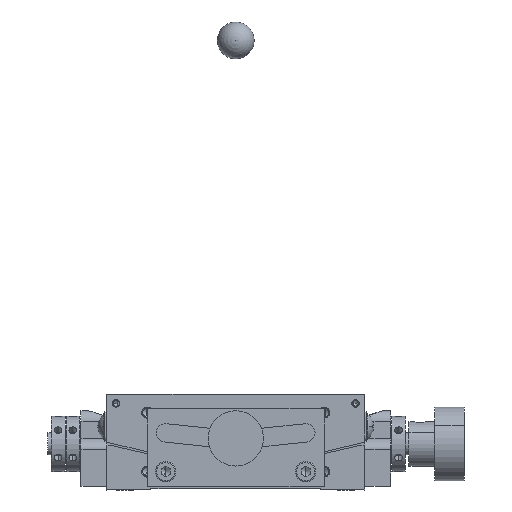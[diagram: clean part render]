
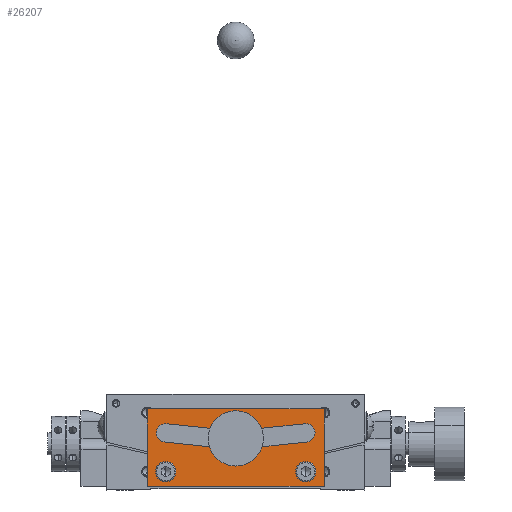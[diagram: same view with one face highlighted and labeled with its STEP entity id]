
A CAD part, front view. The second image highlights one B-rep face of the part: STEP entity #26207.
In plain terms, the highlighted planar face has unit normal (0, -1, 0) as drawn and (-1, 0, 0) by its records, which use the part's own axes.
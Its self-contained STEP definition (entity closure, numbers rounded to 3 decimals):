
#385 = CIRCLE ( 'NONE', #389, 2.5 ) ;
#389 = AXIS2_PLACEMENT_3D ( 'NONE', #58047, #58048, #58049 ) ;
#761 = CIRCLE ( 'NONE', #779, 2.45 ) ;
#779 = AXIS2_PLACEMENT_3D ( 'NONE', #22311, #22312, #22313 ) ;
#3483 = EDGE_CURVE ( 'NONE', #12742, #12734, #56384, .T. ) ;
#3535 = EDGE_CURVE ( 'NONE', #10435, #10813, #48434, .T. ) ;
#6439 = EDGE_CURVE ( 'NONE', #10444, #12750, #48510, .T. ) ;
#6458 = EDGE_CURVE ( 'NONE', #12750, #12726, #44240, .T. ) ;
#6459 = EDGE_CURVE ( 'NONE', #11363, #11175, #44244, .T. ) ;
#6460 = EDGE_CURVE ( 'NONE', #12726, #11363, #44281, .T. ) ;
#6461 = EDGE_CURVE ( 'NONE', #12730, #12742, #57166, .T. ) ;
#6463 = EDGE_CURVE ( 'NONE', #12738, #12730, #57178, .T. ) ;
#6466 = EDGE_CURVE ( 'NONE', #12734, #12738, #57191, .T. ) ;
#7218 = EDGE_CURVE ( 'NONE', #10857, #10439, #65961, .T. ) ;
#10435 = VERTEX_POINT ( 'NONE', #31430 ) ;
#10439 = VERTEX_POINT ( 'NONE', #31432 ) ;
#10444 = VERTEX_POINT ( 'NONE', #31437 ) ;
#10813 = VERTEX_POINT ( 'NONE', #31806 ) ;
#10857 = VERTEX_POINT ( 'NONE', #31850 ) ;
#11175 = VERTEX_POINT ( 'NONE', #18174 ) ;
#11363 = VERTEX_POINT ( 'NONE', #18362 ) ;
#12726 = VERTEX_POINT ( 'NONE', #19045 ) ;
#12730 = VERTEX_POINT ( 'NONE', #19047 ) ;
#12734 = VERTEX_POINT ( 'NONE', #19049 ) ;
#12738 = VERTEX_POINT ( 'NONE', #19051 ) ;
#12742 = VERTEX_POINT ( 'NONE', #19053 ) ;
#12750 = VERTEX_POINT ( 'NONE', #19057 ) ;
#13013 = DIRECTION ( 'NONE',  ( 1., 0., 0. ) ) ;
#13024 = FACE_BOUND ( 'NONE', #67357, .T. ) ;
#13034 = FACE_BOUND ( 'NONE', #67363, .T. ) ;
#13036 = CARTESIAN_POINT ( 'NONE',  ( -37., 0., 1. ) ) ;
#13040 = FACE_BOUND ( 'NONE', #67362, .T. ) ;
#13043 = FACE_OUTER_BOUND ( 'NONE', #67364, .T. ) ;
#13045 = PLANE ( 'NONE',  #55213 ) ;
#13047 = DIRECTION ( 'NONE',  ( 0., 1., 0. ) ) ;
#18174 = CARTESIAN_POINT ( 'NONE',  ( -37., 21.532, 15.506 ) ) ;
#18362 = CARTESIAN_POINT ( 'NONE',  ( -37., 19.377, 13.03 ) ) ;
#19045 = CARTESIAN_POINT ( 'NONE',  ( -37., -19.473, 13.045 ) ) ;
#19047 = CARTESIAN_POINT ( 'NONE',  ( -37., 24., 22. ) ) ;
#19049 = CARTESIAN_POINT ( 'NONE',  ( -37., -24., 1. ) ) ;
#19051 = CARTESIAN_POINT ( 'NONE',  ( -37., 24., 1. ) ) ;
#19053 = CARTESIAN_POINT ( 'NONE',  ( -37., -24., 22. ) ) ;
#19057 = CARTESIAN_POINT ( 'NONE',  ( -37., -18.592, 17.968 ) ) ;
#19850 = CIRCLE ( 'NONE', #19854, 2.45 ) ;
#19854 = AXIS2_PLACEMENT_3D ( 'NONE', #38914, #38915, #38916 ) ;
#22311 = CARTESIAN_POINT ( 'NONE',  ( -37., 19., 5. ) ) ;
#22312 = DIRECTION ( 'NONE',  ( -1., 0., 0. ) ) ;
#22313 = DIRECTION ( 'NONE',  ( 0., 1., 0. ) ) ;
#26207 = ADVANCED_FACE ( 'NONE', ( #13034, #13024, #13040, #13043 ), #13045, .F. ) ;
#31430 = CARTESIAN_POINT ( 'NONE',  ( -37., 16.55, 5. ) ) ;
#31432 = CARTESIAN_POINT ( 'NONE',  ( -37., -21.45, 5. ) ) ;
#31437 = CARTESIAN_POINT ( 'NONE',  ( -37., 18.592, 17.968 ) ) ;
#31806 = CARTESIAN_POINT ( 'NONE',  ( -37., 21.45, 5. ) ) ;
#31850 = CARTESIAN_POINT ( 'NONE',  ( -37., -16.55, 5. ) ) ;
#38914 = CARTESIAN_POINT ( 'NONE',  ( -37., -19., 5. ) ) ;
#38915 = DIRECTION ( 'NONE',  ( -1., 0., 0. ) ) ;
#38916 = DIRECTION ( 'NONE',  ( 0., -1., 0. ) ) ;
#44205 = AXIS2_PLACEMENT_3D ( 'NONE', #57170, #57172, #57174 ) ;
#44239 = VECTOR ( 'NONE', #57222, 1000. ) ;
#44240 = CIRCLE ( 'NONE', #44327, 2.5 ) ;
#44244 = CIRCLE ( 'NONE', #44205, 2.5 ) ;
#44252 = VECTOR ( 'NONE', #57202, 1000. ) ;
#44276 = AXIS2_PLACEMENT_3D ( 'NONE', #57180, #57182, #57184 ) ;
#44281 = CIRCLE ( 'NONE', #44276, 123.5 ) ;
#44298 = VECTOR ( 'NONE', #57187, 1000. ) ;
#44327 = AXIS2_PLACEMENT_3D ( 'NONE', #57160, #57162, #57164 ) ;
#48256 = VECTOR ( 'NONE', #56407, 1000. ) ;
#48386 = AXIS2_PLACEMENT_3D ( 'NONE', #56785, #56787, #56789 ) ;
#48434 = CIRCLE ( 'NONE', #48386, 2.45 ) ;
#48495 = AXIS2_PLACEMENT_3D ( 'NONE', #57027, #57029, #57031 ) ;
#48510 = CIRCLE ( 'NONE', #48495, 118.5 ) ;
#50930 = CARTESIAN_POINT ( 'NONE',  ( -37., -19., 5. ) ) ;
#50931 = DIRECTION ( 'NONE',  ( -1., 0., 0. ) ) ;
#50933 = DIRECTION ( 'NONE',  ( 0., -1., 0. ) ) ;
#55213 = AXIS2_PLACEMENT_3D ( 'NONE', #13036, #13013, #13047 ) ;
#56384 = LINE ( 'NONE', #56402, #48256 ) ;
#56402 = CARTESIAN_POINT ( 'NONE',  ( -37., -24., 22. ) ) ;
#56407 = DIRECTION ( 'NONE',  ( 0., 0., -1. ) ) ;
#56785 = CARTESIAN_POINT ( 'NONE',  ( -37., 19., 5. ) ) ;
#56787 = DIRECTION ( 'NONE',  ( -1., 0., 0. ) ) ;
#56789 = DIRECTION ( 'NONE',  ( 0., 1., 0. ) ) ;
#57027 = CARTESIAN_POINT ( 'NONE',  ( -37., 0., 135. ) ) ;
#57029 = DIRECTION ( 'NONE',  ( -1., 0., 0. ) ) ;
#57031 = DIRECTION ( 'NONE',  ( 0., -1., 0. ) ) ;
#57160 = CARTESIAN_POINT ( 'NONE',  ( -37., -19.032, 15.506 ) ) ;
#57162 = DIRECTION ( 'NONE',  ( 1., 0., 0. ) ) ;
#57164 = DIRECTION ( 'NONE',  ( 0., 1., 0. ) ) ;
#57166 = LINE ( 'NONE', #57168, #44298 ) ;
#57168 = CARTESIAN_POINT ( 'NONE',  ( -37., 24., 22. ) ) ;
#57170 = CARTESIAN_POINT ( 'NONE',  ( -37., 19.032, 15.506 ) ) ;
#57172 = DIRECTION ( 'NONE',  ( 1., 0., 0. ) ) ;
#57174 = DIRECTION ( 'NONE',  ( 0., 1., 0. ) ) ;
#57178 = LINE ( 'NONE', #57197, #44252 ) ;
#57180 = CARTESIAN_POINT ( 'NONE',  ( -37., 0., 135. ) ) ;
#57182 = DIRECTION ( 'NONE',  ( 1., 0., 0. ) ) ;
#57184 = DIRECTION ( 'NONE',  ( 0., 1., 0. ) ) ;
#57187 = DIRECTION ( 'NONE',  ( 0., -1., 0. ) ) ;
#57191 = LINE ( 'NONE', #57218, #44239 ) ;
#57197 = CARTESIAN_POINT ( 'NONE',  ( -37., 24., 1. ) ) ;
#57202 = DIRECTION ( 'NONE',  ( 0., 0., 1. ) ) ;
#57218 = CARTESIAN_POINT ( 'NONE',  ( -37., -24., 1. ) ) ;
#57222 = DIRECTION ( 'NONE',  ( 0., 1., 0. ) ) ;
#58047 = CARTESIAN_POINT ( 'NONE',  ( -37., 19.032, 15.506 ) ) ;
#58048 = DIRECTION ( 'NONE',  ( 1., 0., 0. ) ) ;
#58049 = DIRECTION ( 'NONE',  ( 0., 1., 0. ) ) ;
#59973 = EDGE_CURVE ( 'NONE', #10439, #10857, #19850, .T. ) ;
#60095 = EDGE_CURVE ( 'NONE', #11175, #10444, #385, .T. ) ;
#60184 = EDGE_CURVE ( 'NONE', #10813, #10435, #761, .T. ) ;
#65961 = CIRCLE ( 'NONE', #65967, 2.45 ) ;
#65967 = AXIS2_PLACEMENT_3D ( 'NONE', #50930, #50931, #50933 ) ;
#67357 = EDGE_LOOP ( 'NONE', ( #69235, #69234 ) ) ;
#67362 = EDGE_LOOP ( 'NONE', ( #69233, #69232, #69231, #69230, #69229 ) ) ;
#67363 = EDGE_LOOP ( 'NONE', ( #69237, #69236 ) ) ;
#67364 = EDGE_LOOP ( 'NONE', ( #69228, #69227, #69226, #69225 ) ) ;
#69225 = ORIENTED_EDGE ( 'NONE', *, *, #6463, .F. ) ;
#69226 = ORIENTED_EDGE ( 'NONE', *, *, #6461, .F. ) ;
#69227 = ORIENTED_EDGE ( 'NONE', *, *, #3483, .F. ) ;
#69228 = ORIENTED_EDGE ( 'NONE', *, *, #6466, .F. ) ;
#69229 = ORIENTED_EDGE ( 'NONE', *, *, #6458, .T. ) ;
#69230 = ORIENTED_EDGE ( 'NONE', *, *, #6439, .T. ) ;
#69231 = ORIENTED_EDGE ( 'NONE', *, *, #60095, .T. ) ;
#69232 = ORIENTED_EDGE ( 'NONE', *, *, #6459, .T. ) ;
#69233 = ORIENTED_EDGE ( 'NONE', *, *, #6460, .T. ) ;
#69234 = ORIENTED_EDGE ( 'NONE', *, *, #3535, .F. ) ;
#69235 = ORIENTED_EDGE ( 'NONE', *, *, #60184, .F. ) ;
#69236 = ORIENTED_EDGE ( 'NONE', *, *, #7218, .F. ) ;
#69237 = ORIENTED_EDGE ( 'NONE', *, *, #59973, .F. ) ;
